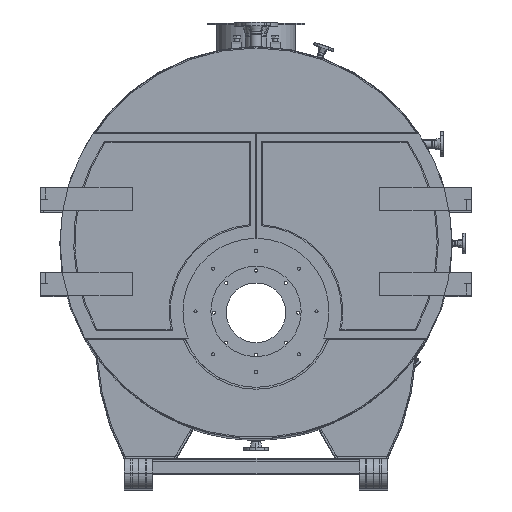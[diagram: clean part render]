
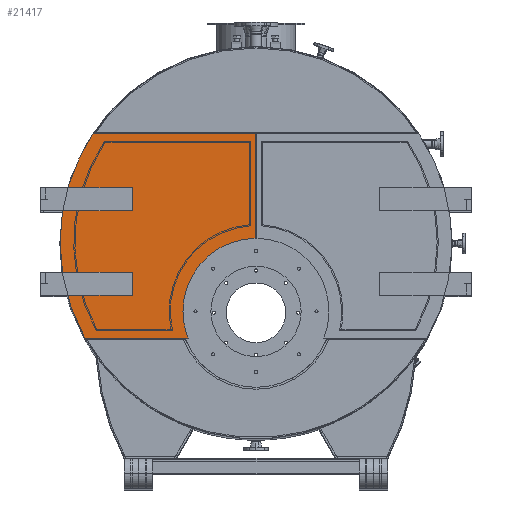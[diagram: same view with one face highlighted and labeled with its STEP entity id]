
A CAD part, top view. The second image highlights one B-rep face of the part: STEP entity #21417.
In plain terms, the highlighted planar face has unit normal (0, 0, 1) as drawn and (0, 0, -1) by its records, which use the part's own axes.
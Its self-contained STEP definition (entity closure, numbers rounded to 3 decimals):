
#74 = EDGE_CURVE ( 'NONE', #15796, #42927, #42226, .T. ) ;
#571 = LINE ( 'NONE', #30947, #47489 ) ;
#735 = PLANE ( 'NONE',  #2898 ) ;
#970 = EDGE_CURVE ( 'NONE', #4767, #39310, #41137, .T. ) ;
#1221 = DIRECTION ( 'NONE',  ( 1., 0., 0. ) ) ;
#1304 = DIRECTION ( 'NONE',  ( 1., 0., 0. ) ) ;
#1391 = DIRECTION ( 'NONE',  ( 0., -1., 0. ) ) ;
#2898 = AXIS2_PLACEMENT_3D ( 'NONE', #11696, #23889, #1221 ) ;
#3091 = ORIENTED_EDGE ( 'NONE', *, *, #48254, .F. ) ;
#4767 = VERTEX_POINT ( 'NONE', #4881 ) ;
#4810 = DIRECTION ( 'NONE',  ( 0., 0., 1. ) ) ;
#4881 = CARTESIAN_POINT ( 'NONE',  ( 1020., 0., -10. ) ) ;
#5006 = AXIS2_PLACEMENT_3D ( 'NONE', #21383, #29578, #40743 ) ;
#5773 = CARTESIAN_POINT ( 'NONE',  ( 0., -357., -10. ) ) ;
#7786 = CARTESIAN_POINT ( 'NONE',  ( 5., 22.967, -10. ) ) ;
#10453 = ORIENTED_EDGE ( 'NONE', *, *, #11416, .F. ) ;
#11416 = EDGE_CURVE ( 'NONE', #15196, #22645, #12870, .T. ) ;
#11462 = DIRECTION ( 'NONE',  ( 0., 0., 1. ) ) ;
#11696 = CARTESIAN_POINT ( 'NONE',  ( 0., 0., -10. ) ) ;
#12675 = CARTESIAN_POINT ( 'NONE',  ( 380., -357., -10. ) ) ;
#12870 = LINE ( 'NONE', #20090, #39655 ) ;
#14554 = CIRCLE ( 'NONE', #31221, 1020. ) ;
#15196 = VERTEX_POINT ( 'NONE', #21301 ) ;
#15278 = AXIS2_PLACEMENT_3D ( 'NONE', #5773, #4810, #1304 ) ;
#15796 = VERTEX_POINT ( 'NONE', #26128 ) ;
#16010 = VERTEX_POINT ( 'NONE', #12675 ) ;
#17119 = EDGE_CURVE ( 'NONE', #15796, #16010, #36777, .T. ) ;
#17204 = EDGE_LOOP ( 'NONE', ( #3091, #39297, #27565, #40088, #10453, #48886, #27929 ) ) ;
#17635 = CIRCLE ( 'NONE', #15278, 380. ) ;
#19383 = CARTESIAN_POINT ( 'NONE',  ( 353.756, -495.768, -10. ) ) ;
#19730 = AXIS2_PLACEMENT_3D ( 'NONE', #25901, #11462, #41054 ) ;
#20090 = CARTESIAN_POINT ( 'NONE',  ( 5., 566.75, -10. ) ) ;
#21301 = CARTESIAN_POINT ( 'NONE',  ( 5., 566.75, -10. ) ) ;
#21383 = CARTESIAN_POINT ( 'NONE',  ( 0., -357., -10. ) ) ;
#21417 = ADVANCED_FACE ( 'NONE', ( #27867 ), #735, .F. ) ;
#22645 = VERTEX_POINT ( 'NONE', #7786 ) ;
#23889 = DIRECTION ( 'NONE',  ( 0., 0., 1. ) ) ;
#25901 = CARTESIAN_POINT ( 'NONE',  ( 0., 0., -10. ) ) ;
#26128 = CARTESIAN_POINT ( 'NONE',  ( 353.756, -495.768, -10. ) ) ;
#27285 = DIRECTION ( 'NONE',  ( 0., 0., 1. ) ) ;
#27565 = ORIENTED_EDGE ( 'NONE', *, *, #17119, .T. ) ;
#27867 = FACE_OUTER_BOUND ( 'NONE', #17204, .T. ) ;
#27929 = ORIENTED_EDGE ( 'NONE', *, *, #970, .F. ) ;
#28668 = EDGE_CURVE ( 'NONE', #16010, #22645, #17635, .T. ) ;
#29578 = DIRECTION ( 'NONE',  ( 0., 0., 1. ) ) ;
#30947 = CARTESIAN_POINT ( 'NONE',  ( 848.053, 566.75, -10. ) ) ;
#31221 = AXIS2_PLACEMENT_3D ( 'NONE', #42667, #27285, #34728 ) ;
#34532 = DIRECTION ( 'NONE',  ( 1., 0., 0. ) ) ;
#34728 = DIRECTION ( 'NONE',  ( 1., 0., 0. ) ) ;
#36777 = CIRCLE ( 'NONE', #5006, 380. ) ;
#36799 = CARTESIAN_POINT ( 'NONE',  ( 891.411, -495.768, -10. ) ) ;
#38407 = CARTESIAN_POINT ( 'NONE',  ( 848.053, 566.75, -10. ) ) ;
#39297 = ORIENTED_EDGE ( 'NONE', *, *, #74, .F. ) ;
#39310 = VERTEX_POINT ( 'NONE', #38407 ) ;
#39655 = VECTOR ( 'NONE', #1391, 1000. ) ;
#40088 = ORIENTED_EDGE ( 'NONE', *, *, #28668, .T. ) ;
#40743 = DIRECTION ( 'NONE',  ( 1., 0., 0. ) ) ;
#41054 = DIRECTION ( 'NONE',  ( 1., 0., 0. ) ) ;
#41137 = CIRCLE ( 'NONE', #19730, 1020. ) ;
#41696 = VECTOR ( 'NONE', #34532, 1000. ) ;
#42226 = LINE ( 'NONE', #19383, #41696 ) ;
#42355 = EDGE_CURVE ( 'NONE', #39310, #15196, #571, .T. ) ;
#42667 = CARTESIAN_POINT ( 'NONE',  ( 0., 0., -10. ) ) ;
#42927 = VERTEX_POINT ( 'NONE', #36799 ) ;
#46115 = DIRECTION ( 'NONE',  ( -1., 0., 0. ) ) ;
#47489 = VECTOR ( 'NONE', #46115, 1000. ) ;
#48254 = EDGE_CURVE ( 'NONE', #42927, #4767, #14554, .T. ) ;
#48886 = ORIENTED_EDGE ( 'NONE', *, *, #42355, .F. ) ;
